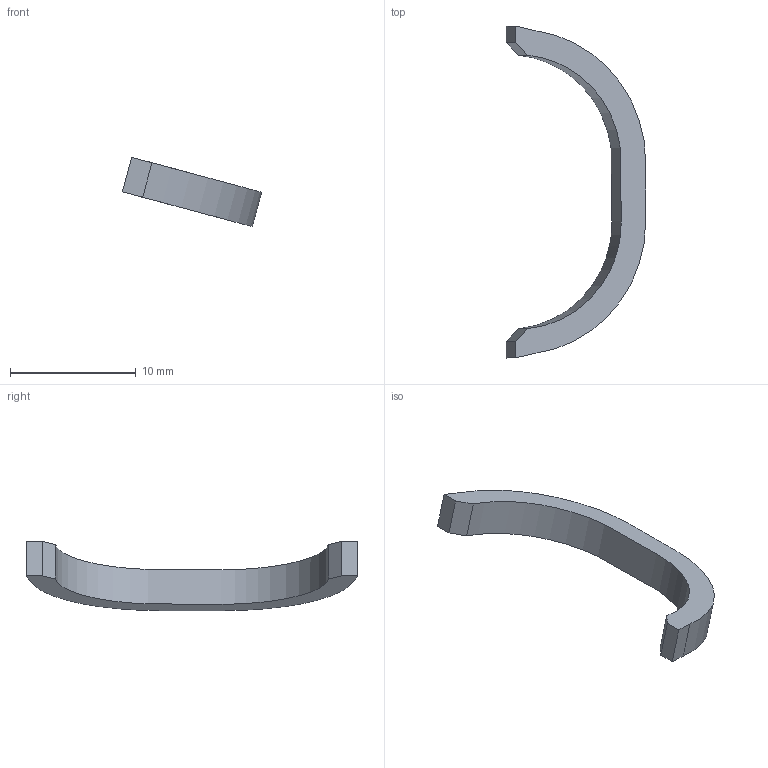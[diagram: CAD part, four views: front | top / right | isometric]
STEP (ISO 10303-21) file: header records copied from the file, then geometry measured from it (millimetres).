
FILE_DESCRIPTION(/* description */ (''),/* implementation_level */ '2;1');
FILE_NAME(/* name */ 'D:/Pew Pews/FGC-9_MkII_Stingray_Edition/Stingray Edition/.step files/5 - Pistol Grip/Grip color inlay (top and middle) (Print 2x).step',/* time_stamp */ '2022-05-12T10:57:42-06:00',/* author */ (''),/* organization */ (''),/* preprocessor_version */ 'ST-DEVELOPER v18.1',/* originating_system */ 'Autodesk Translation Framework v10.10.0.1391',/* authorisation */ '');
FILE_SCHEMA (('AUTOMOTIVE_DESIGN { 1 0 10303 214 3 1 1 }'));
Length unit declared in the file: millimetre
Products named in the file (1): top grip inset
Bounding box: 11.08 x 26.42 x 5.52 mm (x, y, z)
Volume: 204.6 mm3; surface area: 348.8 mm2
Topology: 1 solids, 1 shells, 12 faces, 30 edges, 20 vertices
Faces by surface type: bspline 5, plane 5, cylinder 2
Entity records: 590 total; most frequent: CARTESIAN_POINT 302, ORIENTED_EDGE 60, DIRECTION 34, EDGE_CURVE 30, VERTEX_POINT 20, B_SPLINE_CURVE_WITH_KNOTS 16, FACE_OUTER_BOUND 12, EDGE_LOOP 12
